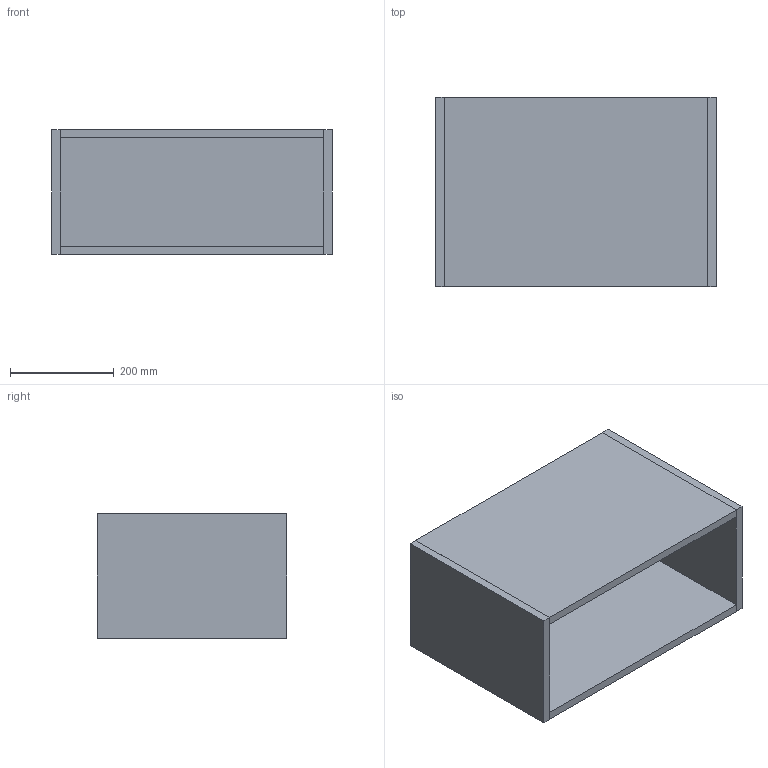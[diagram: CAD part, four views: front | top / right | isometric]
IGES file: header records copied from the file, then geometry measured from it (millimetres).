
Start section: Data from Parasolid IGES Translator 19.0.9, Copyright(c) 2006 Siemens PL M Software. All Rights Reserved.
Global section: file name: noorth-SI-H 24 D 38,8 W 54_8265.igs; native system: By Siemens PLM Incorporated; preprocessor: XPlus GENERIC/IGES 19.0.9; author: Noname; organization: Noname; date: 20200530.105259; units: metre
Bounding box: 540.01 x 364.06 x 240 mm (x, y, z)
Volume: 9016664.9 mm3; surface area: 1399252.4 mm2
Topology: 5 solids, 5 shells, 30 faces, 60 edges, 40 vertices
Faces by surface type: plane 30
